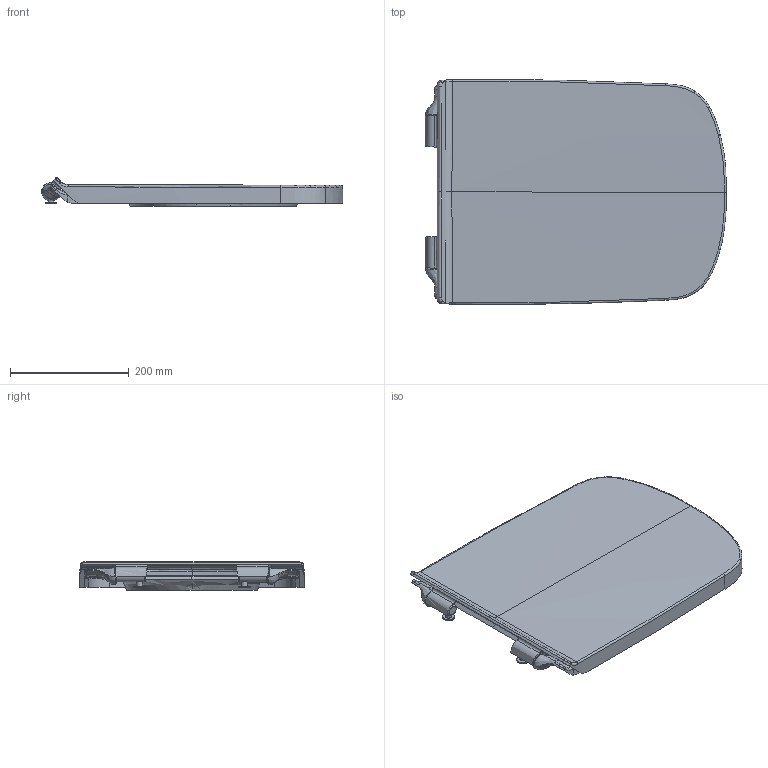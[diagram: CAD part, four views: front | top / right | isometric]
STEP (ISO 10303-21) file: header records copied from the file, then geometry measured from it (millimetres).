
FILE_DESCRIPTION((''),'2;1');
FILE_NAME('C:\Users\Administrator\Desktop\NEWS 2015 Step 1\DuraStyle\3d\stp\006231.stp','2015-05-25T22:24:39',('Administrator'),(''),'Autodesk Inventor 2011','Autodesk Inventor 2011','');
FILE_SCHEMA(('CONFIG_CONTROL_DESIGN'));
Length unit declared in the file: millimetre
Products named in the file (4): 006231; 006231_006239 Deckel; 006231_006239 Sitz; SoftClose
Assembly tree (4 placements, depth 2):
  006231
    006231_006239 Deckel
    006231_006239 Sitz
    SoftClose  x2
Bounding box: 507.49 x 378.44 x 47.84 mm (x, y, z)
Volume: 33616.6 mm3; surface area: 371819 mm2
Topology: 2 solids, 4 shells, 182 faces, 512 edges, 335 vertices
Faces by surface type: bspline 156, plane 16, cylinder 6, torus 4
Full cylindrical faces by diameter (mm): 10 x2, 20 x4
Entity records: 20814 total; most frequent: CARTESIAN_POINT 17398, ORIENTED_EDGE 865, EDGE_CURVE 488, VERTEX_POINT 323, B_SPLINE_CURVE_WITH_KNOTS 288, EDGE_LOOP 184, FACE_OUTER_BOUND 173, ADVANCED_FACE 173
